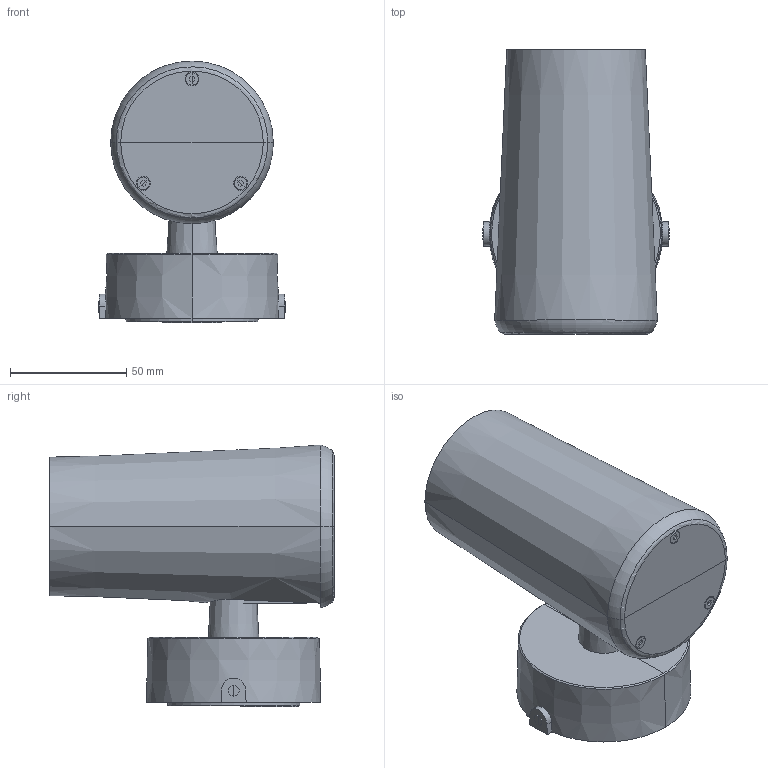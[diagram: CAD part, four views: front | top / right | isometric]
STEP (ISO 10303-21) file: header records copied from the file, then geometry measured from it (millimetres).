
FILE_DESCRIPTION(/* description */ (''),/* implementation_level */ '2;1');
FILE_NAME(/* name */ '75302-221.step',/* time_stamp */ '2024-09-05T15:34:28+02:00',/* author */ ('RenataManzini'),/* organization */ (''),/* preprocessor_version */ 'ST-DEVELOPER v20',/* originating_system */ 'AutoCAD Mechanical',/* authorisation */ '');
FILE_SCHEMA (('AUTOMOTIVE_DESIGN { 1 0 10303 214 3 1 1 }'));
Length unit declared in the file: millimetre
Products named in the file (2): Product; PUK_59 - PUK-463785-Export
Assembly tree (1 placements, depth 2):
  Product
    PUK_59 - PUK-463785-Export
Bounding box: 80.26 x 122.58 x 112.82 mm (x, y, z)
Volume: 403967.8 mm3; surface area: 98812.9 mm2
Topology: 13 solids, 13 shells, 195 faces, 397 edges, 223 vertices
Faces by surface type: plane 86, cylinder 61, cone 38, torus 6, bspline 4
Entity records: 6217 total; most frequent: CARTESIAN_POINT 2105, DIRECTION 906, ORIENTED_EDGE 764, EDGE_CURVE 382, AXIS2_PLACEMENT_3D 361, VERTEX_POINT 218, EDGE_LOOP 208, FACE_OUTER_BOUND 195
